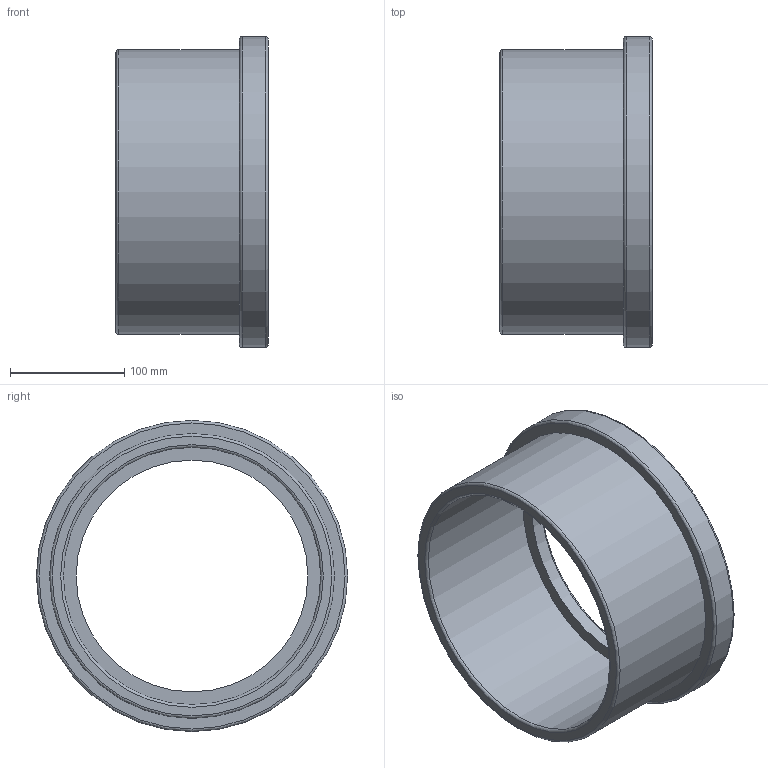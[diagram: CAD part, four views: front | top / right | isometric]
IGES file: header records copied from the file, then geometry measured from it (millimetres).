
Global section: file name: 055000225.ipt; native system: Autodesk Inventor 2015; preprocessor: unknown; author: KIM; date: 20171207.165724; units: millimetre
Bounding box: 133 x 272 x 272 mm (x, y, z)
Volume: 1466924.3 mm3; surface area: 255266.4 mm2
Topology: 1 solids, 1 shells, 21 faces, 60 edges, 45 vertices
Faces by surface type: revolution 12, plane 6, cylinder 3
Full cylindrical faces by diameter (mm): 226.825 x1, 249 x1, 272 x1
